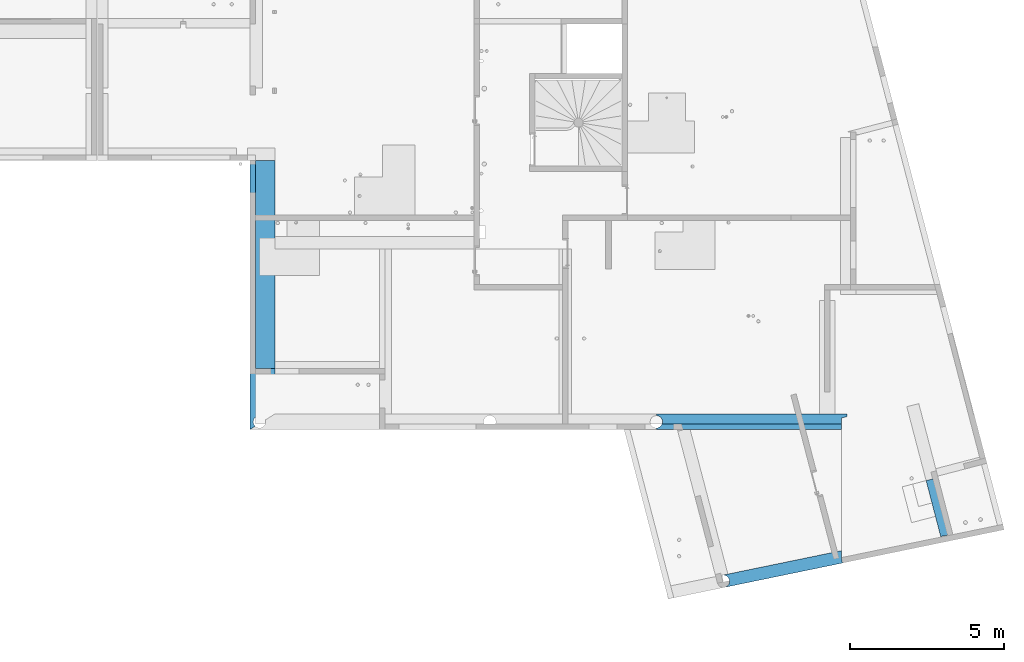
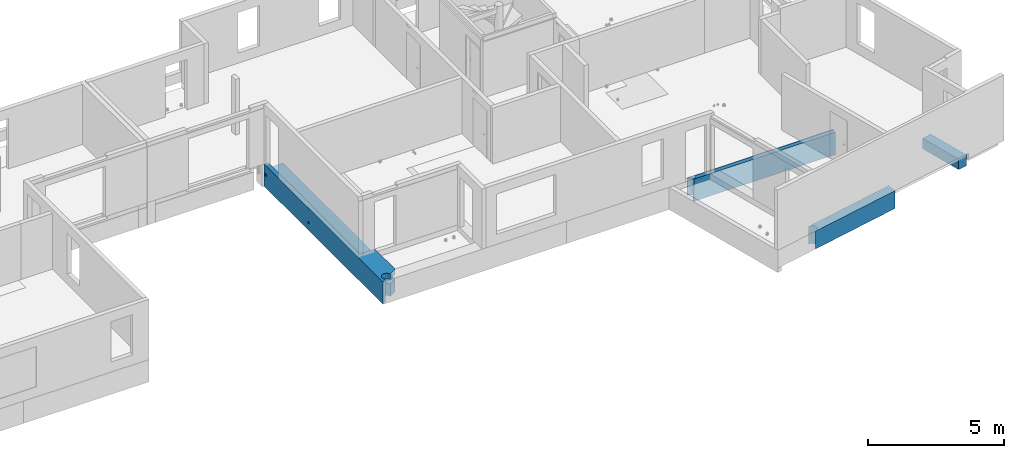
# One storey, part 23 of 34: 4 beams.
"""IFC2X3 building model written with IfcOpenShell, lengths in centimetres."""

from ifc_helpers import new_model, entity, si_unit, converted_unit, derived_unit, direction, frame, origin, place, context, subcontext, project, spatial, faceted_brep, material, material_list, type_object, element, save


model = new_model("IFC2X3")

# Units and contexts
model_context = context("Model", 3, precision=0.001, world=origin(), true_north=direction((6.12303176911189e-17, 1.0)))
body_context = subcontext(model_context, "Body", "Model", "MODEL_VIEW")
ifc_project = project(units=[si_unit("LENGTHUNIT", "METRE", prefix="CENTI"), si_unit("AREAUNIT", "SQUARE_METRE"), si_unit("VOLUMEUNIT", "CUBIC_METRE"), converted_unit("PLANEANGLEUNIT", "DEGREE", entity("IfcRatioMeasure", 0.0174532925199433), si_unit("PLANEANGLEUNIT", "RADIAN"), dimensions=[0, 0, 0, 0, 0, 0, 0]), si_unit("MASSUNIT", "GRAM", prefix="KILO"), derived_unit("MASSDENSITYUNIT", [(si_unit("MASSUNIT", "GRAM", prefix="KILO"), 1), (si_unit("LENGTHUNIT", "METRE"), -3)]), si_unit("TIMEUNIT", "SECOND"), si_unit("FREQUENCYUNIT", "HERTZ"), si_unit("THERMODYNAMICTEMPERATUREUNIT", "DEGREE_CELSIUS"), derived_unit("THERMALTRANSMITTANCEUNIT", [(si_unit("MASSUNIT", "GRAM", prefix="KILO"), 1), (si_unit("THERMODYNAMICTEMPERATUREUNIT", "KELVIN"), -1), (si_unit("TIMEUNIT", "SECOND"), -3)]), derived_unit("VOLUMETRICFLOWRATEUNIT", [(si_unit("LENGTHUNIT", "METRE"), 3), (si_unit("TIMEUNIT", "SECOND"), -1)]), si_unit("ELECTRICCURRENTUNIT", "AMPERE"), si_unit("ELECTRICVOLTAGEUNIT", "VOLT"), si_unit("POWERUNIT", "WATT"), si_unit("FORCEUNIT", "NEWTON"), si_unit("ILLUMINANCEUNIT", "LUX"), si_unit("LUMINOUSFLUXUNIT", "LUMEN"), si_unit("LUMINOUSINTENSITYUNIT", "CANDELA"), derived_unit("USERDEFINED", [(si_unit("MASSUNIT", "GRAM", prefix="KILO"), -1), (si_unit("LENGTHUNIT", "METRE"), -2), (si_unit("TIMEUNIT", "SECOND"), 3), (si_unit("LUMINOUSFLUXUNIT", "LUMEN"), 1)]), derived_unit("LINEARVELOCITYUNIT", [(si_unit("LENGTHUNIT", "METRE"), 1), (si_unit("TIMEUNIT", "SECOND"), -1)]), si_unit("PRESSUREUNIT", "PASCAL"), derived_unit("USERDEFINED", [(si_unit("LENGTHUNIT", "METRE"), -2), (si_unit("MASSUNIT", "GRAM", prefix="KILO"), 1), (si_unit("TIMEUNIT", "SECOND"), -2)])], contexts=[model_context])

# Site, building, storey
site_placement = place(None, origin())
site = spatial("IfcSite", under=ifc_project, at=site_placement, Name="Default", CompositionType="ELEMENT")
building_placement = place(site_placement, origin())
building = spatial("IfcBuilding", under=site, at=building_placement, Name="CAGE 03", CompositionType="ELEMENT")
storey_placement = place(building_placement, frame((0.0, 0.0, 340.0)))
storey = spatial("IfcBuildingStorey", under=building, at=storey_placement, Name="R+1", CompositionType="ELEMENT", Elevation=340.0)

# Beams
ifc_material_1 = material(Name="Béton, C25/30")
ifc_material_2 = material(Name="<Unnamed>")
ifc_material_list = material_list([ifc_material_1, ifc_material_2])
beam_type_1 = type_object("IfcBeamType", Name="40x80ht", PredefinedType="BEAM", material=ifc_material_list)
beam_1_placement = place(storey_placement, frame((10814.6282595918, 3284.75896484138, -80.0), z_axis=(0.0, 0.0, 1.0), x_axis=(0.979414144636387, 0.201861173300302, 0.0)))
element("IfcBeam", 1, at=beam_1_placement, inside=storey, type_object=beam_type_1, material=ifc_material_1, Name="BBGO-Poutre rect:40x80ht", ObjectType="BBGO-Poutre rect:40x80ht", context=body_context, shape_type="Brep", body=[
    faceted_brep([(398.26559972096, -1.50648079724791, 0.0), (398.26559972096, -1.50648079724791, 80.0), (8.09575499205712, -1.50648079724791, 80.0), (8.09575499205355, -1.50648079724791, 0.0), (398.265599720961, 18.4935192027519, 0.0), (12.691427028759, -0.97131571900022, 0.0), (17.0411547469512, 0.605539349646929, 0.0), (20.912155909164, 3.13969663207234, 0.0), (24.0972680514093, 6.49553688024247, 0.0), (26.4260350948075, 10.4934672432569, 0.0), (27.7738295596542, 14.9195324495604, 0.0), (28.0685221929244, 19.5368649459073, 0.0), (27.3757822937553, 23.811464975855, 0.0), (25.7791901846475, 27.8367584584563, 0.0), (23.353594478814, 31.4240386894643, 0.0), (20.2127076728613, 34.405133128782, 0.0), (16.5037752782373, 36.6402873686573, 0.0), (12.4006729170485, 38.0247168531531, 0.0), (8.09575499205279, 38.4935192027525, 0.0), (27.0782565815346, 38.493519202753, 0.0), (402.799887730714, 38.493519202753, 0.0), (398.677807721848, 18.4935192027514, 0.0), (402.799887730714, 38.493519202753, 80.0), (8.09575499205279, 38.4935192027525, 80.0), (27.0782565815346, 38.493519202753, 80.0), (12.4006729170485, 38.0247168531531, 80.0), (16.5037752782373, 36.6402873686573, 80.0), (20.2127076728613, 34.405133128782, 80.0), (23.353594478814, 31.4240386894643, 80.0), (25.7791901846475, 27.8367584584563, 80.0), (27.3757822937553, 23.811464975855, 80.0), (28.0685221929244, 19.5368649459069, 80.0), (27.7738295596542, 14.9195324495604, 80.0), (26.4260350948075, 10.4934672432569, 80.0), (24.0972680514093, 6.49553688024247, 80.0), (20.912155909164, 3.13969663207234, 80.0), (17.0411547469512, 0.605539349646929, 80.0), (12.691427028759, -0.97131571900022, 80.0), (398.265599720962, 10.9935192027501, 80.0), (398.265599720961, 16.4935192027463, 80.0), (398.265599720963, 18.4935192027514, 80.0), (398.677807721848, 18.4935192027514, 80.0), (398.677807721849, 18.4935192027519, 57.0)], [[[0, 1, 2, 3]], [[4, 0, 3, 5, 6, 7, 8, 9, 10, 11, 12, 13, 14, 15, 16, 17, 18, 19, 20, 21]], [[22, 20, 19, 18, 23, 24]], [[22, 24, 23, 25, 26, 27, 28, 29, 30, 31, 32, 33, 34, 35, 36, 37, 2, 1, 38, 39, 40, 41]], [[40, 4, 21, 42, 41]], [[42, 21, 20, 22, 41]], [[5, 3, 2, 37]], [[6, 5, 37, 36]], [[7, 6, 36, 35]], [[35, 34, 8, 7]], [[9, 8, 34, 33]], [[10, 9, 33, 32]], [[11, 10, 32, 31]], [[30, 12, 11, 31]], [[30, 29, 13, 12]], [[14, 13, 29, 28]], [[28, 27, 15, 14]], [[16, 15, 27, 26]], [[17, 16, 26, 25]], [[18, 17, 25, 23]], [[38, 1, 0, 4, 40, 39]]]),
])
beam_type_2 = type_object("IfcBeamType", Name="BBGO-Poutre rect:40x60ht", PredefinedType="BEAM")
beam_2_placement = place(storey_placement, frame((11476.1466430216, 3445.33913075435, -70.0), z_axis=(0.0, 0.0, 1.0), x_axis=(0.252679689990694, -0.967549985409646, 0.0)))
element("IfcBeam", 2, at=beam_2_placement, inside=storey, type_object=beam_type_2, material=ifc_material_1, Name="BBGO-Poutre rect:40x60ht", ObjectType="BBGO-Poutre rect:40x60ht", context=body_context, shape_type="Brep", body=[
    faceted_brep([(-179.671815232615, 86.9220394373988, 0.0), (-179.671815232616, 46.9220394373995, 0.0), (-179.671815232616, 46.9220394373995, 47.0), (-179.671815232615, 86.9220394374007, 47.0), (-179.671815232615, 86.9220394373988, 45.0), (-179.671815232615, 86.9220394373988, 25.0), (7.70437569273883, 46.9220394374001, 0.0), (7.70437569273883, 46.9220394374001, 47.0), (9.79391237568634, 86.9220394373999, 0.0), (11.7966393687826, 86.9220394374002, 47.0), (11.7966393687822, 86.9220394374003, 45.0), (9.79391237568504, 86.9220394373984, 45.0), (16.8408056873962, 78.0524576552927, 60.0), (20.3360399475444, 77.8698721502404, 60.0), (20.3387650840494, 77.9220394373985, 60.0), (16.8435308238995, 78.1046249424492, 60.0), (9.35101798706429, 78.4437123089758, 47.0), (16.8408056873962, 78.0524576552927, 47.0), (16.8435308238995, 78.1046249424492, 47.0), (11.351019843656, 78.3915450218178, 47.0), (9.35101798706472, 78.4437123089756, 45.0), (20.3360399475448, 77.8698721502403, 45.0), (11.3510198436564, 78.3915450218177, 45.0), (20.3387650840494, 77.9220394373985, 45.0)], [[[0, 1, 2, 3, 4, 5]], [[1, 6, 7, 2]], [[1, 0, 8, 6]], [[8, 0, 5, 4, 3, 9, 10, 11]], [[12, 13, 14, 15]], [[7, 16, 17, 18, 19, 9, 3, 2]], [[17, 12, 15, 18]], [[7, 6, 8, 11, 20, 16]], [[21, 20, 11, 10, 22, 23]], [[20, 21, 13, 12, 17, 16]], [[13, 21, 23, 14]], [[19, 22, 10, 9]], [[22, 19, 18, 15, 14, 23]]]),
])
beam_type_3 = type_object("IfcBeamType", Name="BBGO-Poutre rect:50x100ht", PredefinedType="BEAM")
beam_3_placement = place(storey_placement, frame((10601.2070701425, 3796.66066607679, -100.0)))
element("IfcBeam", 3, at=beam_3_placement, inside=storey, type_object=beam_type_3, material=ifc_material_1, Name="BBGO-Poutre rect:50x100ht", ObjectType="BBGO-Poutre rect:50x100ht", context=body_context, shape_type="Brep", body=[
    faceted_brep([(600.158749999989, 0.0, 100.0), (109.75969756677, 0.0, 100.0), (87.0218542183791, 0.0, 100.0), (68.4181642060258, 0.0, 100.0), (55.1587499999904, 0.0, 100.0), (0.1587500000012, 0.0, 100.0), (0.1587500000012, 0.0, 0.0), (600.158749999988, 0.0, 0.0), (600.158749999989, 0.0, 72.0), (0.158750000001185, 5.0, 0.0), (4.60916867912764, 5.50144175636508, 0.0), (8.83642478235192, 6.98062264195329, 0.0), (12.6285460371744, 9.36337035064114, 0.0), (15.79537964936, 12.5302039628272, 0.0), (18.1781273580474, 16.3223252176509, 0.0), (19.657308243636, 20.5495813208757, 0.0), (20.15875, 25.0, 0.0), (19.657308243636, 29.4504186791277, 0.0), (18.1781273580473, 33.6776747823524, 0.0), (15.7953796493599, 37.4697960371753, 0.0), (12.6285460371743, 40.6366296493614, 0.0), (8.83642478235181, 43.0193773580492, 0.0), (4.60916867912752, 44.4985582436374, 0.0), (0.158750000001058, 45.0, 0.0), (0.158750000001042, 50.0, 0.0), (618.158749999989, 50.0, 0.0), (618.158749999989, 41.7212244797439, 0.0), (600.158749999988, 37.0204498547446, 0.0), (618.158749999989, 50.0, 77.0), (0.158750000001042, 50.0, 77.0), (529.65874999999, 50.0, 77.0), (579.658749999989, 50.0, 77.0), (600.158749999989, 18.0, 100.0), (82.3210795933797, 18.0, 100.0), (55.1587499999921, 18.0, 100.0), (18.8937439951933, 18.0, 100.0), (17.1066445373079, 14.3807311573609, 100.0), (14.6292123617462, 11.1939969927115, 100.0), (11.5621724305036, 8.56948093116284, 100.0), (8.03017454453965, 6.61411749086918, 100.0), (4.17727309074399, 5.40787218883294, 100.0), (0.158750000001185, 5.0, 100.0), (18.893743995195, 18.0, 77.0), (19.8399577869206, 21.4433077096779, 77.0), (20.15875, 25.0, 77.0), (19.657308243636, 29.4504186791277, 77.0), (18.1781273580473, 33.6776747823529, 77.0), (15.7953796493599, 37.4697960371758, 77.0), (12.6285460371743, 40.6366296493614, 77.0), (8.83642478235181, 43.0193773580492, 77.0), (4.60916867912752, 44.4985582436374, 77.0), (0.158750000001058, 45.0, 77.0), (600.158749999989, 37.020449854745, 77.0), (600.158749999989, 18.0, 77.0), (618.158749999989, 41.7212244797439, 77.0)], [[[0, 1, 2, 3, 4, 5, 6, 7, 8]], [[7, 6, 9, 10, 11, 12, 13, 14, 15, 16, 17, 18, 19, 20, 21, 22, 23, 24, 25, 26, 27]], [[28, 25, 24, 29, 30, 31]], [[32, 33, 34, 35, 36, 37, 38, 39, 40, 41, 5, 4, 3, 2, 1, 0]], [[10, 9, 40]], [[11, 10, 39]], [[12, 11, 38]], [[40, 9, 41]], [[10, 40, 39]], [[39, 38, 11]], [[38, 37, 12]], [[37, 13, 12]], [[14, 13, 36]], [[15, 14, 42]], [[16, 15, 43]], [[35, 42, 36]], [[14, 36, 42]], [[15, 42, 43]], [[43, 44, 16]], [[37, 36, 13]], [[45, 17, 16, 44]], [[45, 46, 18, 17]], [[19, 18, 46, 47]], [[47, 48, 20, 19]], [[21, 20, 48, 49]], [[22, 21, 49, 50]], [[23, 22, 50, 51]], [[52, 53, 32, 0, 8, 7, 27]], [[52, 27, 26, 54]], [[29, 24, 23, 51]], [[41, 9, 6, 5]], [[54, 26, 25, 28]], [[28, 31, 30, 29, 51, 50, 49, 48, 47, 46, 45, 44, 43, 42, 53, 52, 54]], [[33, 32, 53, 42, 35, 34]]]),
])
beam_type_4 = type_object("IfcBeamType", Name="BBGO-Poutre rect:80x100ht", PredefinedType="BEAM")
beam_4_placement = place(storey_placement, frame((9284.36582014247, 3796.66066607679, -100.0), z_axis=(0.0, 0.0, 1.0), x_axis=(0.0, 1.0, 0.0)))
element("IfcBeam", 4, at=beam_4_placement, inside=storey, type_object=beam_type_4, material=ifc_material_1, Name="BBGO-Poutre rect:80x100ht", ObjectType="BBGO-Poutre rect:80x100ht", context=body_context, shape_type="Brep", body=[
    faceted_brep([(872.0, -80.0, 77.0), (865.680005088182, -80.0, 64.0497647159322), (866.815486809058, -80.0, 63.2910600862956), (867.950968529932, -80.0, 62.5323554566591), (868.709673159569, -80.0, 61.3968737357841), (869.468377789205, -80.0, 60.2613920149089), (869.734799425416, -80.0, 58.9220000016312), (864.340613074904, -80.0, 64.3161863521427), (863.001221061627, -80.0, 64.5826079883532), (861.661829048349, -80.0, 64.3161863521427), (860.322437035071, -80.0, 64.0497647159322), (859.186955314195, -80.0, 63.2910600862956), (858.051473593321, -80.0, 62.532355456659), (625.0, -80.0, 77.0), (870.001221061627, -80.0, 57.5826079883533), (872.0, -80.0, 0.0), (550.117449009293, -80.0, 31.09084258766), (856.534064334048, -80.0, 54.9038239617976), (856.267642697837, -80.0, 56.2432159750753), (857.292768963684, -80.0, 61.396873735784), (856.534064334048, -80.0, 60.2613920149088), (856.267642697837, -80.0, 58.9220000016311), (856.001221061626, -80.0, 57.5826079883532), (550.811146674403, -80.0, 31.9607119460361), (551.504844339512, -80.0, 32.8305813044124), (551.752422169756, -80.0, 33.9152906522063), (552.0, -80.0, 35.0), (585.0, -80.0, 77.0), (551.812504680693, -80.0, 35.8214706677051), (551.504844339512, -80.0, 37.169418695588), (550.811146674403, -80.0, 38.0392880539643), (550.117449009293, -80.0, 38.9091574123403), (549.115026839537, -80.0, 39.3918984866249), (548.112604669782, -80.0, 39.8746395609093), (547.0, -80.0, 39.8746395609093), (545.887395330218, -80.0, 39.8746395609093), (544.884973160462, -80.0, 39.3918984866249), (543.882550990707, -80.0, 38.9091574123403), (220.0, -80.0, 77.0), (543.188853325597, -80.0, 38.0392880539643), (542.495155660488, -80.0, 37.169418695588), (542.187495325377, -80.0, 35.8214706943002), (542.0, -80.0, 35.0), (542.187495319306, -80.0, 34.1785293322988), (542.495155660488, -80.0, 32.8305813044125), (543.188853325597, -80.0, 31.9607119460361), (543.882550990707, -80.0, 31.09084258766), (180.0, -80.0, 55.0), (198.0, -80.0, 77.0), (180.0, -80.0, 75.0), (180.0, -80.0, 100.0), (198.0, -80.0, 100.0), (50.0, -80.0, 75.0), (50.0, -80.0, 100.0), (544.884973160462, -80.0, 30.6081015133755), (545.887395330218, -80.0, 30.1253604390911), (50.0, -80.0, 0.0), (50.0, -80.0, 55.0), (869.770631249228, -80.0, 56.4233547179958), (549.115026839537, -80.0, 30.6081015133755), (869.468377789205, -80.0, 54.9038239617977), (868.709673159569, -80.0, 53.7683422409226), (857.292768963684, -80.0, 53.7683422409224), (858.051473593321, -80.0, 52.6328605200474), (859.186955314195, -80.0, 51.8741558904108), (860.322437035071, -80.0, 51.1154512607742), (548.112604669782, -80.0, 30.125360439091), (547.0, -80.0, 30.1253604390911), (861.661829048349, -80.0, 50.8490296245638), (863.001221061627, -80.0, 50.5826079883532), (864.340613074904, -80.0, 50.8490296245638), (865.680005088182, -80.0, 51.1154512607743), (866.815486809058, -80.0, 51.8741558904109), (867.950968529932, -80.0, 52.6328605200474), (872.0, 0.0, 0.0), (30.726632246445, -49.1626115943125, 0.0), (35.0760595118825, -47.2763718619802, 0.0), (38.8593276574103, -44.4193979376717, 0.0), (41.8638603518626, -40.7522190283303, 0.0), (43.9208372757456, -36.4808885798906, 0.0), (44.9146798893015, -31.8454064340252, 0.0), (44.7895456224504, -27.1062335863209, 0.0), (43.5524655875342, -22.5296572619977, 0.0), (41.2729495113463, -18.3728286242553, 0.0), (38.0790800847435, -14.8693138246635, 0.0), (34.1503161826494, -12.2159702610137, 0.0), (29.7074093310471, -10.5618854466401, 0.0), (25.0, -10.0, 0.0), (20.8953614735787, -10.4257326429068, 0.0), (16.9654708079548, -11.6848057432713, 0.0), (13.377636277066, -13.7236164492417, 0.0), (10.2846037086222, -16.4553659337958, 0.0), (0.0, 0.0, 0.0), (550.117449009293, 0.0, 31.09084258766), (550.811146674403, 0.0, 31.9607119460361), (551.504844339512, 0.0, 32.8305813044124), (769.0, 0.0, 100.0), (856.534064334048, 0.0, 54.9038239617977), (857.292768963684, 0.0, 53.7683422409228), (549.115026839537, 0.0, 30.6081015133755), (548.112604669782, 0.0, 30.125360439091), (547.0, 0.0, 30.1253604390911), (545.887395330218, 0.0, 30.1253604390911), (858.051473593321, 0.0, 52.6328605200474), (859.186955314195, 0.0, 51.8741558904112), (860.322437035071, 0.0, 51.1154512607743), (861.661829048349, 0.0, 50.849029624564), (863.001221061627, 0.0, 50.5826079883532), (864.340613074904, 0.0, 50.8490296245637), (865.680005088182, 0.0, 51.1154512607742), (866.815486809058, 0.0, 51.8741558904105), (867.950968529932, 0.0, 52.6328605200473), (868.70967315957, 0.0, 53.7683422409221), (869.468377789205, 0.0, 54.9038239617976), (869.734799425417, 0.0, 56.2432159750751), (870.001221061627, 0.0, 57.5826079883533), (872.0, 0.0, 100.0), (544.884973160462, 0.0, 30.6081015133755), (543.882550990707, 0.0, 31.09084258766), (180.0, 0.0, 100.0), (0.0, 0.0, 100.0), (545.887395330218, 0.0, 39.8746395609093), (544.884973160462, 0.0, 39.3918984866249), (543.188853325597, 0.0, 31.9607119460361), (542.495155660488, 0.0, 32.8305813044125), (542.247577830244, 0.0, 33.9152906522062), (542.0, 0.0, 35.0), (542.247577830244, 0.0, 36.0847093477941), (542.495155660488, 0.0, 37.169418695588), (543.188853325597, 0.0, 38.0392880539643), (543.882550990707, 0.0, 38.9091574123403), (551.812504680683, 0.0, 34.1785293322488), (552.0, 0.0, 35.0), (551.752422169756, 0.0, 36.0847093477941), (551.504844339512, 0.0, 37.169418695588), (550.811146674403, 0.0, 38.0392880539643), (550.117449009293, 0.0, 38.9091574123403), (549.115026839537, 0.0, 39.3918984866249), (548.112604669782, 0.0, 39.8746395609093), (547.0, 0.0, 39.8746395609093), (856.231810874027, 0.0, 56.4233547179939), (856.001221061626, 0.0, 57.5826079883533), (856.231810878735, 0.0, 58.7418612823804), (856.534064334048, 0.0, 60.2613920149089), (860.0, 0.0, 100.0), (863.001221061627, 0.0, 64.5826079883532), (861.661829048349, 0.0, 64.3161863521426), (857.292768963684, 0.0, 61.3968737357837), (858.051473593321, 0.0, 62.5323554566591), (860.322437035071, 0.0, 64.0497647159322), (859.186955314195, 0.0, 63.2910600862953), (869.770631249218, 0.0, 58.7418612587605), (869.468377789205, 0.0, 60.2613920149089), (868.70967315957, 0.0, 61.3968737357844), (867.950968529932, 0.0, 62.5323554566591), (866.815486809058, 0.0, 63.291060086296), (865.680005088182, 0.0, 64.0497647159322), (864.340613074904, 0.0, 64.3161863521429), (10.2846037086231, -16.4553659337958, 100.0), (13.377636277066, -13.7236164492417, 100.0), (16.9654708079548, -11.6848057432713, 100.0), (20.8953614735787, -10.4257326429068, 100.0), (25.0, -10.0, 100.0), (29.7074093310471, -10.5618854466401, 100.0), (34.1503161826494, -12.2159702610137, 100.0), (38.079080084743, -14.8693138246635, 100.0), (41.2729495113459, -18.3728286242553, 100.0), (43.5524655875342, -22.5296572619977, 100.0), (44.7895456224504, -27.1062335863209, 100.0), (44.9146798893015, -31.8454064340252, 100.0), (43.9208372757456, -36.4808885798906, 100.0), (41.8638603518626, -40.7522190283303, 100.0), (38.8593276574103, -44.4193979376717, 100.0), (35.0760595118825, -47.2763718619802, 100.0), (30.7266322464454, -49.1626115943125, 100.0), (198.0, -67.0, 100.0), (198.0, -18.0, 100.0), (769.0, -18.0, 100.0), (860.0, -18.0, 100.0), (872.0, -18.0, 100.0), (872.0, -18.0, 77.0), (198.0, -18.0, 77.0), (41.0, -18.0, 75.0), (41.0, -18.0, 55.0), (180.0, -18.0, 55.0), (180.0, -18.0, 75.0), (35.1259109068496, -47.247200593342, 55.0), (30.726632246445, -49.1626115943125, 55.0), (30.726632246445, -49.1626115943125, 75.0), (38.9423813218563, -44.3391074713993, 55.0), (41.9563822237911, -40.6057108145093, 55.0), (43.9944393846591, -36.2618904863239, 55.0), (35.1259109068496, -47.247200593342, 75.0), (38.9423813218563, -44.3391074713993, 75.0), (43.9944393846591, -36.2618904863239, 75.0), (41.9563822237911, -40.6057108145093, 75.0), (44.9392501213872, -31.557659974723, 75.0), (44.9392501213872, -31.557659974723, 55.0), (44.7364347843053, -26.7637765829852, 55.0), (43.3976666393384, -22.1561576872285, 55.0), (44.7364347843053, -26.7637765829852, 75.0), (43.3976666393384, -22.1561576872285, 75.0), (868.82150834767, -40.0, 53.6936163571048), (856.276393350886, -40.0, 55.639236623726), (857.18093377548, -40.0, 53.6936163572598), (866.890212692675, -40.0, 51.7623207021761), (864.366853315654, -40.0, 50.7171110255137), (867.95096852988, -34.2410417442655, 52.6328605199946), (869.726048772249, -40.0, 55.6392366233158), (870.001221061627, -50.7863044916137, 57.5826079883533), (865.680005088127, -34.241041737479, 51.1154512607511), (863.001221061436, -34.2410417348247, 50.5826079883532), (856.001221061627, -29.2136954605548, 57.5826079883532), (859.112229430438, -40.0, 51.7623207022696), (860.322437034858, -45.7589582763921, 51.1154512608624), (858.051473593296, -34.2410417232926, 52.6328605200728), (861.63558880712, -40.0, 50.7171110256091), (870.001221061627, -29.2136955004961, 57.5826079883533), (857.180933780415, -40.0000001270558, 61.4715996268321), (869.726048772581, -40.0, 59.5259793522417), (859.112229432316, -40.0000000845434, 63.4028952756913), (867.950968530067, -34.2410417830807, 62.5323554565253), (868.821508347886, -40.0, 61.471599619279), (861.635588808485, -40.0, 64.448104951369), (856.276393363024, -39.9999992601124, 59.5259793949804), (858.051473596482, -34.2410419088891, 62.5323554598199), (860.322437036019, -34.2410418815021, 64.0497647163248), (863.001221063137, -34.2410418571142, 64.5826079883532), (866.890212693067, -40.0, 63.4028952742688), (865.680005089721, -45.7589582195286, 64.049764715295), (864.366853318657, -40.0, 64.4481049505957), (552.0, -30.619753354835, 35.0), (552.0, -49.3801580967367, 35.0), (542.224783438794, -39.3834377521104, 33.5176684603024), (542.0, -49.3801580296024, 35.0), (551.036450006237, -40.0, 32.049225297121), (551.775216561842, -40.6165622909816, 33.5176684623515), (543.882550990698, -33.2861030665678, 31.0908425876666), (543.090842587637, -40.0, 31.8825509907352), (549.169418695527, -40.0, 30.4951556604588), (550.198747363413, -35.7697144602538, 31.157082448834), (548.112604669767, -33.2861030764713, 30.1253604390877), (547.0, -40.0, 30.0), (544.830581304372, -40.0, 30.4951556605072), (545.887395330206, -33.2861030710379, 30.1253604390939), (542.583547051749, -28.6487288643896, 32.655870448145), (542.661151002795, -55.1569180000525, 32.5151681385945), (542.224783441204, -39.3834366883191, 36.482331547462), (542.963549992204, -40.0, 37.9507747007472), (551.775216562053, -39.3834377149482, 36.482331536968), (551.416452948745, -28.6487289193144, 37.3441295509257), (551.33884899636, -55.1569180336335, 37.4848318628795), (550.117449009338, -33.2861031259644, 38.9091574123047), (550.909157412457, -40.0, 38.1174490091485), (544.830581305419, -40.0, 39.5048443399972), (543.801252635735, -35.7697146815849, 38.8429175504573), (545.887395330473, -33.286103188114, 39.8746395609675), (547.0, -40.0, 40.0), (549.169418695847, -40.0, 39.5048443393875), (548.11260466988, -33.2861031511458, 39.8746395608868)], [[[0, 1, 2]], [[0, 2, 3]], [[0, 3, 4]], [[0, 4, 5]], [[0, 5, 6]], [[0, 7, 1]], [[0, 8, 7]], [[0, 9, 8]], [[0, 10, 9]], [[0, 11, 10]], [[0, 12, 11]], [[13, 12, 0]], [[0, 6, 14]], [[14, 15, 0]], [[15, 13, 16]], [[13, 15, 17]], [[13, 17, 18]], [[13, 19, 12]], [[13, 20, 19]], [[13, 21, 20]], [[13, 22, 21]], [[13, 18, 22]], [[13, 23, 16]], [[13, 24, 23]], [[13, 25, 24]], [[13, 26, 25]], [[27, 26, 13]], [[27, 28, 26]], [[27, 29, 28]], [[27, 30, 29]], [[27, 31, 30]], [[27, 32, 31]], [[27, 33, 32]], [[27, 34, 33]], [[27, 35, 34]], [[27, 36, 35]], [[27, 37, 36]], [[27, 38, 37]], [[38, 39, 37]], [[38, 40, 39]], [[38, 41, 40]], [[38, 42, 41]], [[38, 43, 42]], [[38, 44, 43]], [[38, 45, 44]], [[38, 46, 45]], [[46, 38, 47]], [[47, 38, 48]], [[48, 49, 47]], [[49, 48, 50]], [[48, 51, 50]], [[49, 50, 52]], [[52, 50, 53]], [[47, 54, 46]], [[47, 55, 54]], [[47, 56, 55]], [[56, 47, 57]], [[55, 56, 15]], [[15, 14, 58]], [[15, 16, 59]], [[15, 58, 60]], [[15, 60, 61]], [[15, 62, 17]], [[15, 63, 62]], [[15, 64, 63]], [[15, 65, 64]], [[15, 59, 66]], [[15, 66, 67]], [[15, 68, 65]], [[15, 69, 68]], [[15, 70, 69]], [[15, 71, 70]], [[15, 72, 71]], [[15, 73, 72]], [[15, 61, 73]], [[15, 67, 55]], [[74, 15, 56, 75, 76, 77, 78, 79, 80, 81, 82, 83, 84, 85, 86, 87, 88, 89, 90, 91, 92]], [[74, 93, 94]], [[74, 94, 95]], [[74, 95, 96]], [[74, 96, 97]], [[74, 97, 98]], [[74, 99, 93]], [[74, 100, 99]], [[74, 101, 100]], [[74, 102, 101]], [[74, 92, 102]], [[74, 98, 103]], [[74, 103, 104]], [[74, 104, 105]], [[74, 105, 106]], [[74, 106, 107]], [[74, 107, 108]], [[74, 108, 109]], [[74, 109, 110]], [[74, 110, 111]], [[74, 111, 112]], [[74, 112, 113]], [[74, 113, 114]], [[74, 114, 115]], [[116, 74, 115]], [[92, 117, 102]], [[92, 118, 117]], [[92, 119, 118]], [[92, 120, 119]], [[119, 96, 121]], [[119, 121, 122]], [[119, 123, 118]], [[119, 124, 123]], [[119, 125, 124]], [[119, 126, 125]], [[119, 127, 126]], [[119, 128, 127]], [[119, 129, 128]], [[119, 130, 129]], [[119, 122, 130]], [[96, 95, 131]], [[96, 131, 132]], [[96, 132, 133]], [[96, 133, 134]], [[96, 134, 135]], [[96, 135, 136]], [[96, 136, 137]], [[96, 137, 138]], [[96, 138, 139]], [[96, 139, 121]], [[96, 140, 97]], [[96, 141, 140]], [[96, 142, 141]], [[96, 143, 142]], [[143, 96, 144]], [[145, 144, 116]], [[144, 145, 146]], [[144, 147, 143]], [[144, 148, 147]], [[144, 146, 149]], [[144, 149, 150]], [[144, 150, 148]], [[116, 115, 151]], [[116, 151, 152]], [[116, 152, 153]], [[116, 153, 154]], [[116, 154, 155]], [[116, 155, 156]], [[116, 156, 157]], [[116, 157, 145]], [[96, 119, 120, 158, 159, 160, 161, 162, 163, 164, 165, 166, 167, 168, 169, 170, 171, 172, 173, 174, 53, 50, 51, 175, 176, 177, 178, 179, 116, 144]], [[180, 0, 15, 74, 116, 179]], [[13, 0, 180, 181, 48, 38, 27]], [[175, 51, 48, 181, 176]], [[177, 176, 181, 180, 179, 178]], [[182, 183, 184, 185]], [[161, 160, 89, 88]], [[87, 162, 161, 88]], [[159, 158, 91, 90]], [[160, 159, 90, 89]], [[186, 77, 76]], [[187, 76, 75]], [[174, 173, 188]], [[186, 76, 187]], [[186, 189, 77]], [[79, 78, 190]], [[80, 79, 191]], [[189, 190, 78]], [[191, 79, 190]], [[77, 189, 78]], [[173, 192, 188]], [[172, 192, 173]], [[172, 193, 192]], [[170, 194, 195]], [[171, 195, 193]], [[171, 170, 195]], [[169, 194, 170]], [[196, 194, 169]], [[172, 171, 193]], [[197, 80, 191]], [[198, 82, 81]], [[197, 198, 81]], [[199, 82, 198]], [[199, 83, 82]], [[80, 197, 81]], [[84, 165, 164, 85]], [[85, 164, 163, 86]], [[183, 84, 83]], [[84, 183, 182, 165]], [[199, 183, 83]], [[163, 162, 87, 86]], [[168, 200, 196]], [[168, 167, 200]], [[201, 200, 167]], [[166, 201, 167]], [[169, 168, 196]], [[165, 182, 166]], [[201, 166, 182]], [[158, 120, 92, 91]], [[53, 174, 188, 52]], [[57, 187, 75, 56]], [[57, 47, 184, 183, 199, 198, 197, 191, 190, 189, 186, 187]], [[52, 188, 192, 193, 195, 194, 196, 200, 201, 182, 185, 49]], [[185, 184, 47, 49]], [[61, 60, 202, 73]], [[203, 17, 204]], [[72, 73, 205, 71]], [[97, 203, 204]], [[203, 97, 140]], [[70, 71, 206, 69]], [[207, 205, 73]], [[60, 208, 202]], [[209, 208, 58]], [[202, 112, 207]], [[207, 110, 205]], [[210, 206, 71]], [[205, 110, 210]], [[114, 208, 209]], [[206, 108, 211]], [[203, 140, 212]], [[213, 64, 214]], [[140, 141, 212]], [[212, 22, 18]], [[62, 63, 204, 17]], [[215, 204, 63]], [[216, 105, 214]], [[18, 203, 212]], [[210, 108, 206]], [[106, 105, 216]], [[213, 104, 215]], [[98, 97, 204]], [[208, 113, 202]], [[58, 208, 60]], [[58, 14, 209]], [[114, 209, 217, 115]], [[68, 69, 216]], [[215, 98, 204]], [[65, 214, 64]], [[103, 215, 104]], [[216, 211, 106]], [[214, 68, 216]], [[111, 207, 112]], [[202, 113, 112]], [[110, 207, 111]], [[109, 210, 110]], [[202, 207, 73]], [[108, 210, 109]], [[107, 211, 108]], [[205, 210, 71]], [[114, 113, 208]], [[64, 213, 63]], [[213, 105, 104]], [[98, 215, 103]], [[213, 215, 63]], [[18, 17, 203]], [[106, 211, 107]], [[68, 214, 65]], [[206, 211, 69]], [[211, 216, 69]], [[213, 214, 105]], [[19, 20, 218, 12]], [[219, 152, 151]], [[11, 12, 220, 10]], [[221, 153, 222]], [[152, 219, 222]], [[9, 10, 223, 8]], [[224, 142, 143]], [[219, 151, 217]], [[224, 21, 212]], [[218, 147, 225]], [[226, 223, 10]], [[225, 220, 12]], [[220, 150, 226]], [[142, 224, 212]], [[223, 146, 227]], [[219, 5, 222]], [[228, 2, 229]], [[230, 156, 229]], [[4, 3, 222, 5]], [[20, 224, 218]], [[221, 222, 3]], [[6, 219, 217]], [[1, 229, 2]], [[154, 221, 155]], [[157, 156, 230]], [[228, 155, 221]], [[153, 152, 222]], [[218, 224, 143]], [[6, 217, 209, 14]], [[151, 115, 217]], [[226, 146, 223]], [[212, 141, 142]], [[22, 212, 21]], [[7, 8, 230]], [[225, 150, 220]], [[230, 227, 157]], [[229, 7, 230]], [[148, 225, 147]], [[218, 143, 147]], [[150, 225, 148]], [[149, 226, 150]], [[218, 225, 12]], [[146, 226, 149]], [[145, 227, 146]], [[220, 226, 10]], [[224, 20, 21]], [[228, 3, 2]], [[228, 156, 155]], [[153, 221, 154]], [[228, 221, 3]], [[6, 5, 219]], [[145, 157, 227]], [[7, 229, 1]], [[223, 227, 8]], [[227, 230, 8]], [[228, 229, 156]], [[132, 131, 231]], [[25, 26, 232, 231]], [[233, 125, 234]], [[95, 235, 236]], [[237, 123, 238]], [[234, 43, 233]], [[59, 16, 239, 66]], [[93, 240, 94]], [[236, 25, 231]], [[235, 24, 236]], [[235, 94, 240]], [[239, 99, 241]], [[95, 236, 131]], [[67, 66, 242, 55]], [[231, 131, 236]], [[54, 55, 243, 46]], [[244, 117, 243]], [[45, 46, 238]], [[241, 101, 242]], [[237, 238, 46]], [[43, 44, 233]], [[240, 239, 16]], [[243, 117, 237]], [[240, 99, 239]], [[238, 123, 245]], [[42, 43, 234]], [[126, 234, 125]], [[241, 242, 66]], [[244, 243, 55]], [[242, 101, 244]], [[245, 233, 246]], [[23, 24, 235]], [[124, 245, 123]], [[245, 124, 233]], [[236, 24, 25]], [[16, 23, 240]], [[235, 95, 94]], [[99, 240, 93]], [[23, 235, 240]], [[100, 241, 99]], [[101, 241, 100]], [[102, 244, 101]], [[239, 241, 66]], [[117, 244, 102]], [[118, 237, 117]], [[242, 244, 55]], [[44, 45, 246]], [[123, 237, 118]], [[243, 237, 46]], [[233, 124, 125]], [[238, 245, 246]], [[238, 246, 45]], [[44, 246, 233]], [[40, 247, 248]], [[232, 28, 249]], [[247, 128, 248]], [[250, 249, 251]], [[252, 135, 253]], [[36, 37, 254, 35]], [[247, 234, 127]], [[234, 247, 41]], [[41, 247, 40]], [[248, 129, 255]], [[254, 122, 256]], [[41, 42, 234]], [[234, 126, 127]], [[34, 35, 257, 33]], [[249, 133, 232]], [[32, 33, 258, 31]], [[252, 253, 31]], [[30, 31, 253]], [[259, 258, 33]], [[256, 139, 257]], [[28, 29, 249]], [[39, 40, 248]], [[258, 137, 252]], [[256, 257, 35]], [[253, 135, 250]], [[26, 28, 232]], [[133, 132, 231, 232]], [[255, 254, 37]], [[255, 122, 254]], [[257, 139, 259]], [[259, 137, 258]], [[134, 250, 135]], [[250, 134, 249]], [[127, 128, 247]], [[130, 255, 129]], [[37, 39, 255]], [[248, 128, 129]], [[122, 255, 130]], [[39, 248, 255]], [[121, 256, 122]], [[139, 256, 121]], [[138, 259, 139]], [[254, 256, 35]], [[137, 259, 138]], [[136, 252, 137]], [[257, 259, 33]], [[30, 251, 29]], [[135, 252, 136]], [[258, 252, 31]], [[249, 134, 133]], [[253, 250, 251]], [[253, 251, 30]], [[29, 251, 249]]]),
])

save(model, "model.ifc")
